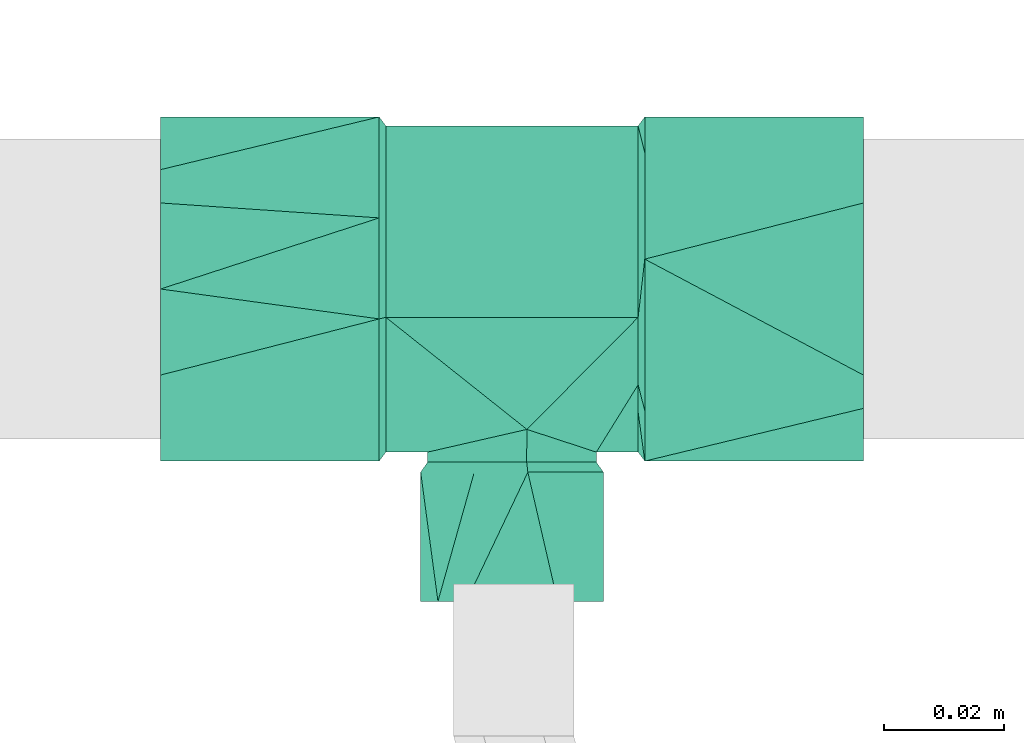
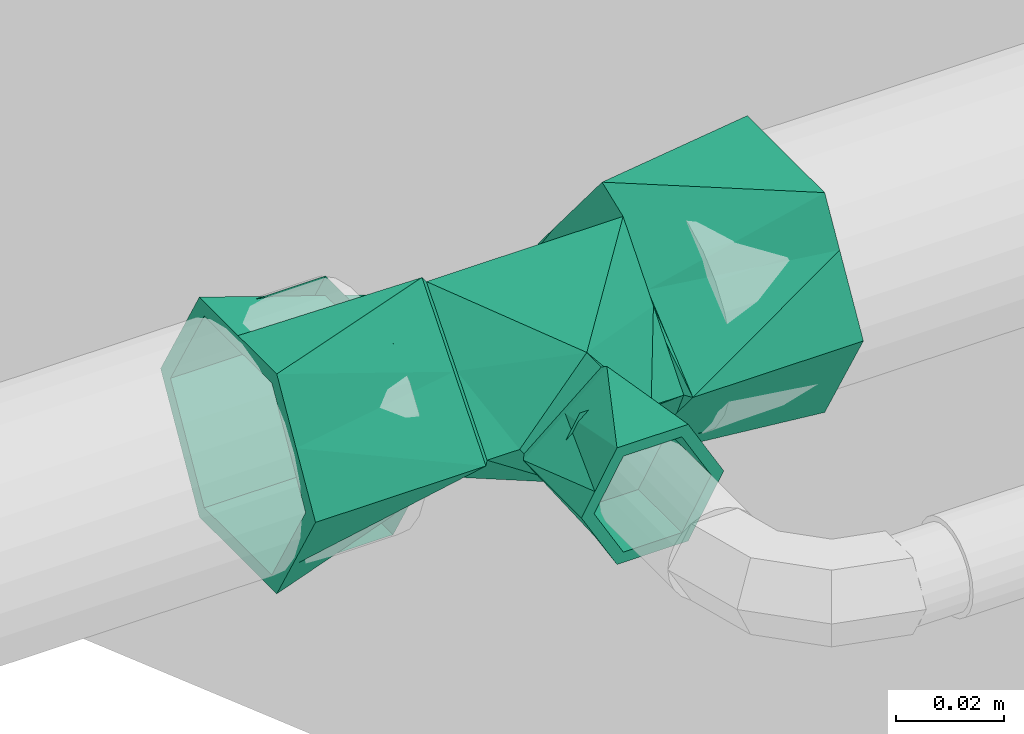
# One storey, part 92 of 166: 1 flow fitting.
"""IFC2X3 building model written with IfcOpenShell, lengths in metres."""

from ifc_helpers import new_model, entity, si_unit, converted_unit, direction, frame, origin, place, context, subcontext, project, spatial, faceted_brep, source, transform, mapped, material, type_object, type_shapes, element, save


model = new_model("IFC2X3")

# Units and contexts
model_context = context("Model", 3, precision=1e-05, world=origin(), true_north=direction((6.123233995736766e-17, 1.0)))
body_context = subcontext(model_context, "Body", "Model", "MODEL_VIEW")
ifc_project = project(units=[si_unit("LENGTHUNIT", "METRE"), converted_unit("PLANEANGLEUNIT", "DEGREE", entity("IfcPlaneAngleMeasure", 0.017453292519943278), si_unit("PLANEANGLEUNIT", "RADIAN"), dimensions=[0, 0, 0, 0, 0, 0, 0]), si_unit("AREAUNIT", "SQUARE_METRE")], contexts=[model_context])

# Site, building, storey
site_placement = place(None, origin())
site = spatial("IfcSite", under=ifc_project, at=site_placement, Name="Default", CompositionType="ELEMENT")
building_placement = place(site_placement, origin())
building = spatial("IfcBuilding", under=site, at=building_placement, Name="CASA DE ACOLHIDA PARA IDOSOS", CompositionType="ELEMENT")
storey_placement = place(building_placement, frame((0.0, 0.0, -1.7499999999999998)))
storey = spatial("IfcBuildingStorey", under=building, at=storey_placement, Name="IMPLANTAÇÃO DRENAGEM", CompositionType="ELEMENT", Elevation=-1.7499999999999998)

# Flow fitting
ifc_material = material(Name="PVC Branco")
pipe_fitting_type = type_object("IfcPipeFittingType", Name="AF_Roscavel_Te_Reducao:Standard", PredefinedType="NOTDEFINED", material=ifc_material)
shared_shape = source(origin(), body_context, "Body", "Brep", [
    faceted_brep([(-0.022099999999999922, 0.022730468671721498, -0.007053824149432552), (-0.022099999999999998, 0.028649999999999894, 0.0), (-0.021, 0.027149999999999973, 0.0), (-0.02099999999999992, 0.019184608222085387, -0.006684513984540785), (-0.020999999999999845, 0.011219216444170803, -0.013369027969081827), (-0.022099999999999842, 0.0168109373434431, -0.014107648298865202), (-0.020999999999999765, 0.0032538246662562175, -0.02005354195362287), (-0.022099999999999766, 0.010891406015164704, -0.02116147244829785), (-0.020999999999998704, -0.015930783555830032, -0.013369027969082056), (-0.022099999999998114, -0.020244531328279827, -0.007053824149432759), (-0.022099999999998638, -0.01183906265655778, -0.01410764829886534), (-0.020999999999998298, -0.02051095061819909, -0.007911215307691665), (-0.02209999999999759, -0.02865000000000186, 0.0), (-0.020999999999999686, -0.004711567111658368, -0.02673805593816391), (-0.02209999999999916, -0.0034335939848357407, -0.021161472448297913), (-0.022099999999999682, 0.004971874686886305, -0.028215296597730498), (-0.020999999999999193, -0.010321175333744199, -0.02005354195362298), (-0.02099999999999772, -0.027150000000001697, 0.0), (-0.02210000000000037, -0.022732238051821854, 0.007053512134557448), (-0.021000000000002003, -0.019182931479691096, 0.006684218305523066), (-0.021000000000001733, -0.011215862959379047, 0.013368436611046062), (-0.022100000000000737, -0.0168144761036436, 0.014107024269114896), (-0.021000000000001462, -0.0032487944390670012, 0.020052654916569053), (-0.022100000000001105, -0.010896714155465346, 0.021160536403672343), (-0.022100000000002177, 0.020242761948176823, 0.007053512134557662), (-0.02100000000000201, 0.021542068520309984, 0.006684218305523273), (-0.022100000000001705, 0.0034282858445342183, 0.021160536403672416), (-0.021000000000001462, 0.010326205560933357, 0.020052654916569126), (-0.022100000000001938, 0.01183552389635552, 0.014107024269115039), (-0.021000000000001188, 0.004718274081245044, 0.02673687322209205), (-0.022100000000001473, -0.004978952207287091, 0.028214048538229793), (-0.021000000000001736, 0.01593413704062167, 0.013368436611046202), (-0.02099999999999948, 0.018449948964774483, 0.010369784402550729), (0.021, 0.027149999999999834, 0.0), (0.021000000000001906, 0.004718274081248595, 0.026736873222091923), (0.021000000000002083, 0.010326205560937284, 0.02005265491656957), (0.021000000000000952, 0.015934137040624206, 0.013368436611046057), (0.021000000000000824, 0.020511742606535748, 0.007912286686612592), (0.021, -0.027150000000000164, 0.0), (0.0024774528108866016, -0.023369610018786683, 0.013819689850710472), (0.008258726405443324, -0.025259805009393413, 0.006909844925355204), (0.014040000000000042, -0.027150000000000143, 0.0), (-0.014039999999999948, -0.02715000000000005, 0.0), (-0.008913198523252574, -0.02597661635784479, 0.004289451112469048), (-0.0057812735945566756, -0.02525980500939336, 0.0069098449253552), (0.021000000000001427, -0.01918293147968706, 0.006684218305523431), (0.021000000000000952, -0.011215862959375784, 0.013368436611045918), (0.02100000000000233, -0.00324879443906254, 0.020052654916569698), (0.02099999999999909, 0.019607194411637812, -0.006329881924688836), (0.020999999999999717, 0.011219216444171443, -0.013369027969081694), (0.02099999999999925, 0.003253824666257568, -0.02005354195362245), (0.020999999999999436, -0.004711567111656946, -0.02673805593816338), (-0.0024814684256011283, -0.023370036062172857, -0.013818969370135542), (0.020999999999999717, -0.015930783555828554, -0.013369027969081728), (0.008912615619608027, -0.025976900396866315, -0.004288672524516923), (0.005779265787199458, -0.025260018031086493, -0.006909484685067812), (-0.00826073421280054, -0.025260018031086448, -0.006909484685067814), (0.020999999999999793, -0.020510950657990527, -0.007911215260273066), (0.020999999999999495, -0.010321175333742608, -0.020053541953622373), (0.02210000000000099, 0.01681093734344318, 0.014107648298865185), (0.022100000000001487, 0.01089140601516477, 0.021161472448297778), (0.022100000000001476, -0.012730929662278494, 0.013359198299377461), (0.022100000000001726, -0.003879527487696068, 0.020787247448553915), (0.022100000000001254, -0.020690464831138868, 0.006679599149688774), (0.022100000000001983, 0.004971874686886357, 0.02821529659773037), (0.0221, 0.028650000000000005, 0.0), (0.022100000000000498, 0.022730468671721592, 0.007053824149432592), (0.022100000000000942, -0.011839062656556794, 0.014107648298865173), (0.022100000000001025, -0.02864999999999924, 0.0), (0.022099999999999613, -0.009809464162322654, -0.022456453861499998), (0.022099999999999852, -0.021644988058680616, -0.008349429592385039), (0.02209999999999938, 0.0034282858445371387, -0.02116053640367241), (0.022099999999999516, -0.004978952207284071, -0.028214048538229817), (0.02209999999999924, 0.011835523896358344, -0.014107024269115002), (0.0220999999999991, 0.02024276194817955, -0.0070535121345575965), (0.02209999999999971, -0.014639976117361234, -0.01669885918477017), (0.022100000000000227, -0.016814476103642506, -0.014107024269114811), (-0.058500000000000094, -0.014325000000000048, -0.024811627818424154), (-0.058500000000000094, -0.025, 0.0), (-0.058500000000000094, -0.01997114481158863, -0.00871023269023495), (-0.0585000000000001, -0.019870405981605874, -0.015206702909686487), (-0.058500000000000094, -0.012500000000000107, -0.021650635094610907), (-0.058500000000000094, 0.0, -0.02165063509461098), (-0.058500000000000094, 0.012499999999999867, -0.021650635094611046), (-0.0585000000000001, 0.0, -0.024811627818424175), (-0.058500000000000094, -0.028650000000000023, 0.0), (-0.0585000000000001, -0.018750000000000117, 0.01082531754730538), (-0.058500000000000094, -0.012500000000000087, 0.021650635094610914), (-0.0585000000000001, -0.021487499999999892, 0.012405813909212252), (-0.058500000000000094, -0.014324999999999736, 0.02481162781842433), (-0.058500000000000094, 0.0, 0.021650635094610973), (-0.058500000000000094, 0.012499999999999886, 0.021650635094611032), (-0.0585000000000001, 0.0, 0.02481162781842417), (-0.058500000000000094, 0.014325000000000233, 0.024811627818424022), (-0.0585000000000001, 0.019870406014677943, 0.015206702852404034), (-0.058500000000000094, 0.02864999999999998, 0.0), (-0.058500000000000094, 0.019971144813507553, 0.00871023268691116), (-0.058500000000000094, 0.025, 0.0), (-0.0585000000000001, 0.021487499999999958, -0.012405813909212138), (-0.058500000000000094, 0.014324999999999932, -0.0248116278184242), (-0.058500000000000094, 0.018749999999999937, -0.010825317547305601), (0.0585000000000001, 0.021487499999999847, 0.012405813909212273), (0.058500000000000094, 0.028650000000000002, 0.0), (0.058500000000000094, -0.028650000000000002, 0.0), (0.0585000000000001, -0.01987040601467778, 0.015206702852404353), (0.0585000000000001, -0.021487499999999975, -0.012405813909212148), (0.0585000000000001, 0.019870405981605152, -0.015206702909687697), (0.058500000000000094, 0.014325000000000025, -0.024811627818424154), (0.058500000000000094, 0.024999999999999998, 0.0), (0.058500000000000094, 0.019971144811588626, -0.00871023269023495), (0.058500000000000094, 0.012500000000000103, -0.021650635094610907), (0.058500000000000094, 0.0, -0.02165063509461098), (0.058500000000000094, -0.012499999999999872, -0.021650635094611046), (0.0585000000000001, 0.0, -0.024811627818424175), (0.0585000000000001, 0.01875000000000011, 0.01082531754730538), (0.058500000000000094, 0.012500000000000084, 0.021650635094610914), (0.058500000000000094, 0.014324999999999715, 0.02481162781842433), (0.058500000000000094, 0.0, 0.021650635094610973), (0.058500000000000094, -0.012499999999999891, 0.021650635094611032), (0.0585000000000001, 0.0, 0.02481162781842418), (0.058500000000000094, -0.014325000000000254, 0.024811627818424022), (0.058500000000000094, -0.019971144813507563, 0.00871023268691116), (0.058500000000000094, -0.025000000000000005, 0.0), (0.058500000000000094, -0.014324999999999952, -0.0248116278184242), (0.058500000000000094, -0.018749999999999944, -0.010825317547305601), (-0.032600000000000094, -0.025, 0.0), (-0.032600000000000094, -0.019971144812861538, 0.00871023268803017), (-0.032600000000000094, -0.012500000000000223, 0.021650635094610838), (-0.032600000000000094, 0.0, 0.021650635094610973), (-0.032600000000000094, 0.012499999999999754, 0.02165063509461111), (-0.032600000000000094, 0.018749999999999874, 0.010825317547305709), (-0.032600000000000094, 0.025, 0.0), (-0.032600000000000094, 0.019971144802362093, -0.008710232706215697), (-0.032600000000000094, 0.012500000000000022, -0.021650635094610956), (-0.032600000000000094, 0.0, -0.02165063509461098), (-0.032600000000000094, -0.012499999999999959, -0.021650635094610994), (-0.032600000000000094, -0.018749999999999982, -0.010825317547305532), (0.03260000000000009, -0.025, 0.0), (0.032600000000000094, -0.018749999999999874, 0.010825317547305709), (0.032600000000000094, -0.012499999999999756, 0.02165063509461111), (0.032600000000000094, 0.0, 0.021650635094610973), (0.032600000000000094, 0.012500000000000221, 0.021650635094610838), (0.032600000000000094, 0.019971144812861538, 0.00871023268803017), (0.032600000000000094, 0.025, 0.0), (0.032600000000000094, 0.018749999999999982, -0.010825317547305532), (0.032600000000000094, 0.012499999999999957, -0.021650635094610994), (0.032600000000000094, 0.0, -0.02165063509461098), (0.032600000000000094, -0.012500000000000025, -0.021650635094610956), (0.032600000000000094, -0.019971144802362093, -0.008710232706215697), (0.012500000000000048, -0.03589999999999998, 0.0), (0.006250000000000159, -0.035899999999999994, 0.010825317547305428), (-0.0062499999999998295, -0.03590000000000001, 0.010825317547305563), (-0.012499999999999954, -0.03590000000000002, 0.0), (-0.006249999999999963, -0.03590000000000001, -0.010825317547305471), (0.006250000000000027, -0.035899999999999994, -0.01082531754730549), (0.012500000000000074, -0.05199999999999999, 0.0), (0.006250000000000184, -0.052, 0.010825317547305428), (-0.006249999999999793, -0.05200000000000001, 0.01082531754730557), (-0.01249999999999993, -0.052000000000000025, 0.0), (-0.006249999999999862, -0.05200000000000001, -0.010825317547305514), (0.006250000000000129, -0.052, -0.010825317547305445), (-0.011620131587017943, -0.028800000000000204, -0.0028835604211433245), (-0.01403999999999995, -0.02880000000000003, 0.0), (-0.002436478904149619, -0.028800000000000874, -0.013826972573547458), (-0.008238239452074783, -0.02880000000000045, -0.006913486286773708), (0.0030428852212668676, -0.028800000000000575, -0.009228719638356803), (0.014040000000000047, -0.02879999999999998, 0.0), (0.008541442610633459, -0.02880000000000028, -0.004614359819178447), (0.005801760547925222, -0.02880000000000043, -0.006913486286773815), (0.011620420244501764, -0.028799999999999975, 0.002883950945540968), (0.002439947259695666, -0.028799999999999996, 0.01382636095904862), (0.008239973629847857, -0.028799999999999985, 0.00691318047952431), (-0.0030421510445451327, -0.028800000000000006, 0.00922698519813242), (-0.008541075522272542, -0.028800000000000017, 0.004613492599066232), (-0.005800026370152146, -0.028800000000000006, 0.006913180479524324), (0.0026415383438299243, -0.030500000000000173, 0.01496870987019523), (0.008920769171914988, -0.03050000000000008, 0.007484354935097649), (0.010065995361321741, -0.030500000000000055, 0.006119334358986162), (0.015200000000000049, -0.03049999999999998, 0.0), (-0.015199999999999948, -0.03050000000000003, 0.0), (-0.006279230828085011, -0.0305000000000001, 0.007484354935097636), (-0.0026377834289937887, -0.030500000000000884, -0.01496937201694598), (-0.008918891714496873, -0.03050000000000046, -0.007484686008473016), (-0.010065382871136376, -0.030500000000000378, -0.006118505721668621), (0.006281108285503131, -0.03050000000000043, -0.007484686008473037), (0.007600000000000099, -0.052, -0.01316358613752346), (0.012327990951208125, -0.05199999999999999, -0.004974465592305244), (0.0, -0.052000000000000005, -0.01316358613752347), (0.015200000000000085, -0.051999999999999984, 0.0), (0.011400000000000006, -0.05199999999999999, 0.00658179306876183), (0.007599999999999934, -0.052, 0.013163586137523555), (0.0, -0.052000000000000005, 0.013163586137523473), (-0.007600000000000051, -0.05200000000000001, 0.01316358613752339), (-0.012327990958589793, -0.052000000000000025, 0.00497446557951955), (-0.015199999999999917, -0.05200000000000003, 0.0), (-0.011399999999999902, -0.052000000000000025, -0.006581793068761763), (-0.007599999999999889, -0.05200000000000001, -0.013163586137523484)], [[[0, 1, 2]], [[3, 4, 5]], [[6, 7, 4]], [[8, 9, 10]], [[11, 12, 9]], [[13, 14, 15]], [[14, 16, 10]], [[16, 14, 13]], [[2, 3, 0]], [[9, 8, 11]], [[11, 17, 12]], [[7, 6, 15]], [[6, 13, 15]], [[5, 4, 7]], [[16, 8, 10]], [[3, 5, 0]], [[18, 12, 17]], [[19, 20, 21]], [[22, 23, 20]], [[1, 24, 25]], [[25, 2, 1]], [[26, 27, 28]], [[29, 26, 30]], [[27, 26, 29]], [[17, 19, 18]], [[23, 22, 30]], [[24, 28, 31]], [[22, 29, 30]], [[21, 20, 23]], [[27, 31, 28]], [[19, 21, 18]], [[24, 31, 32, 25]], [[33, 2, 25, 32, 31, 27, 29, 34, 35, 36, 37]], [[38, 39, 40, 41]], [[20, 42, 43, 44, 39]], [[39, 38, 45, 46]], [[20, 39, 46]], [[34, 29, 22, 20, 46, 47]], [[42, 20, 19, 17]], [[4, 3, 2, 33, 48, 49, 50, 51, 13, 6]], [[51, 52, 13]], [[53, 41, 54, 55, 52]], [[8, 52, 56, 42]], [[42, 17, 11, 8]], [[41, 53, 57, 38]], [[52, 51, 58, 53]], [[52, 8, 16, 13]], [[36, 35, 59, 37]], [[34, 60, 35]], [[46, 45, 61]], [[47, 46, 62]], [[38, 63, 45]], [[64, 34, 47]], [[65, 33, 66]], [[60, 34, 64]], [[46, 61, 67, 62]], [[64, 47, 62]], [[33, 37, 66]], [[37, 59, 66]], [[63, 38, 68]], [[63, 61, 45]], [[60, 59, 35]], [[51, 69, 58]], [[68, 38, 70]], [[51, 71, 72]], [[73, 49, 74]], [[75, 53, 58]], [[33, 65, 48]], [[50, 73, 71]], [[53, 75, 76, 70]], [[48, 74, 49]], [[73, 50, 49]], [[51, 50, 71]], [[38, 57, 53, 70]], [[48, 65, 74]], [[69, 51, 72]], [[69, 75, 58]], [[77, 78, 79]], [[78, 77, 80]], [[77, 79, 81]], [[77, 81, 82]], [[77, 82, 83]], [[83, 84, 77]], [[78, 80, 85]], [[85, 86, 78]], [[85, 87, 86]], [[87, 85, 88]], [[87, 88, 89]], [[89, 90, 87]], [[89, 91, 90]], [[91, 89, 92]], [[91, 92, 93]], [[91, 93, 94]], [[91, 94, 95]], [[95, 96, 91]], [[95, 97, 96]], [[97, 95, 98]], [[97, 98, 99]], [[99, 83, 100]], [[83, 99, 84]], [[99, 100, 97]], [[28, 94, 93]], [[94, 28, 24, 1]], [[1, 95, 94]], [[65, 101, 102]], [[12, 88, 85]], [[68, 103, 104]], [[89, 21, 23, 30]], [[21, 89, 88]], [[88, 12, 18, 21]], [[92, 30, 26, 28]], [[30, 92, 89]], [[28, 93, 92]], [[10, 80, 77]], [[80, 10, 9, 12]], [[12, 85, 80]], [[68, 105, 103]], [[1, 98, 95]], [[65, 102, 106]], [[99, 5, 7, 15]], [[5, 99, 98]], [[98, 1, 0, 5]], [[15, 77, 84, 99]], [[77, 15, 14, 10]], [[107, 108, 109]], [[108, 107, 106]], [[107, 109, 110]], [[107, 110, 111]], [[107, 111, 112]], [[112, 113, 107]], [[108, 106, 102]], [[102, 114, 108]], [[102, 115, 114]], [[115, 102, 101]], [[115, 101, 116]], [[116, 117, 115]], [[116, 118, 117]], [[118, 116, 119]], [[118, 119, 120]], [[118, 120, 104]], [[118, 104, 103]], [[103, 121, 118]], [[103, 122, 121]], [[122, 103, 105]], [[122, 105, 123]], [[123, 112, 124]], [[112, 123, 113]], [[123, 124, 122]], [[67, 104, 120]], [[104, 67, 61, 63, 68]], [[116, 59, 60, 64]], [[59, 116, 101]], [[101, 65, 66, 59]], [[64, 120, 119, 116]], [[120, 64, 62, 67]], [[73, 106, 107]], [[106, 73, 74, 65]], [[123, 76, 75, 69, 72]], [[76, 123, 105]], [[105, 68, 70, 76]], [[113, 72, 71, 73]], [[72, 113, 123]], [[73, 107, 113]], [[125, 126, 127, 128, 129, 130, 131, 132, 133, 134, 135, 136]], [[87, 127, 126, 125, 78, 86]], [[137, 138, 139, 118, 121, 122]], [[129, 128, 127, 87, 90, 91]], [[139, 140, 141, 115, 117, 118]], [[131, 130, 129, 91, 96, 97]], [[115, 141, 142, 143, 108, 114]], [[83, 133, 132, 131, 97, 100]], [[143, 144, 145, 110, 109, 108]], [[135, 134, 133, 83, 82, 81]], [[145, 146, 147, 112, 111, 110]], [[125, 136, 135, 81, 79, 78]], [[112, 147, 148, 137, 122, 124]], [[143, 142, 141, 140, 139, 138, 137, 148, 147, 146, 145, 144]], [[149, 150, 151, 152, 153, 154]], [[155, 156, 150, 149]], [[156, 157, 151, 150]], [[157, 158, 152, 151]], [[158, 159, 153, 152]], [[159, 160, 154, 153]], [[160, 155, 149, 154]], [[42, 161, 162]], [[56, 163, 164, 161]], [[163, 56, 52]], [[165, 163, 52]], [[166, 167, 41]], [[55, 167, 168, 165]], [[55, 54, 41, 167]], [[165, 52, 55]], [[56, 161, 42]], [[41, 169, 166]], [[40, 170, 171, 169]], [[170, 40, 39]], [[172, 170, 39]], [[162, 173, 42]], [[44, 173, 174, 172]], [[44, 43, 42, 173]], [[172, 39, 44]], [[40, 169, 41]], [[175, 176, 177, 178, 166, 169, 171, 170]], [[170, 172, 174, 173, 162, 179, 180, 175]], [[181, 182, 183, 179, 162, 161, 164, 163]], [[163, 165, 168, 167, 166, 178, 184, 181]], [[185, 155, 160]], [[155, 185, 186]], [[185, 160, 159]], [[159, 187, 185]], [[155, 186, 188]], [[156, 155, 188]], [[156, 188, 189]], [[156, 189, 190]], [[156, 190, 157]], [[157, 190, 191]], [[157, 191, 192]], [[157, 192, 193]], [[157, 193, 194]], [[194, 158, 157]], [[158, 194, 195]], [[158, 195, 196]], [[196, 159, 158]], [[159, 196, 187]], [[180, 193, 192]], [[180, 179, 193]], [[179, 194, 193]], [[178, 189, 188]], [[175, 190, 176]], [[176, 190, 189]], [[189, 178, 177, 176]], [[180, 191, 175]], [[175, 191, 190]], [[180, 192, 191]], [[184, 186, 185]], [[184, 178, 186]], [[178, 188, 186]], [[179, 195, 194]], [[181, 196, 182]], [[182, 196, 195]], [[195, 179, 183, 182]], [[181, 185, 187, 196]], [[181, 184, 185]]]),
])
type_shapes(pipe_fitting_type, [shared_shape])
flow_fitting_placement = place(storey_placement, frame((-44.99094889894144, 22.85494207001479, -0.19999999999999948), z_axis=(0.0, 0.0, -1.0), x_axis=(-1.0, 0.0, 0.0)))
element("IfcFlowFitting", 1, at=flow_fitting_placement, inside=storey, type_object=pipe_fitting_type, material=ifc_material, Name="AF_Roscavel_Te_Reducao:Standard", ObjectType="AF_Roscavel_Te_Reducao:Standard", context=body_context, shape_type="MappedRepresentation", body=[
    mapped(shared_shape, transform((0.0, 0.0, 0.0), scale=1.0)),
])

save(model, "model.ifc")
